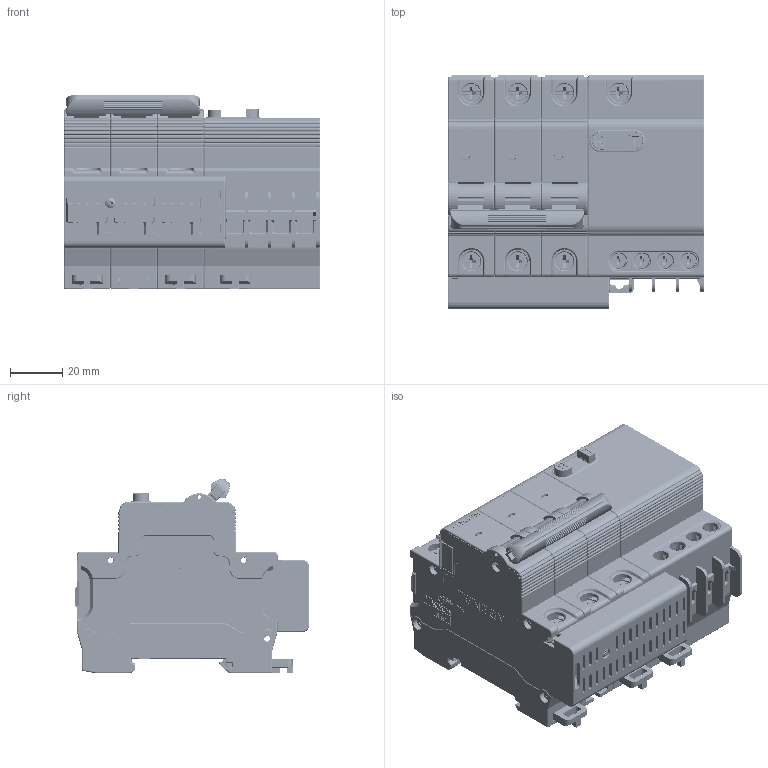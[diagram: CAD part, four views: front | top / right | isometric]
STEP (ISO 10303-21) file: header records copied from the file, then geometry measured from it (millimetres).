
FILE_DESCRIPTION (( 'STEP AP214' ), '1' );
FILE_NAME ('TGB1NLE-32 3P+N.STEP', '2025-12-12T12:58:45', ( '' ), ( '' ), 'SwSTEP 2.0', 'SolidWorks 2024', '' );
FILE_SCHEMA (( 'AUTOMOTIVE_DESIGN' ));
Length unit declared in the file: millimetre
Products named in the file (3): 2TZD_256_1139_SW0001_1.stp; TGB1NLE-32 3P+N; TGB1NLE-32 3P+N.stp
Assembly tree (2 placements, depth 3):
  TGB1NLE-32 3P+N
    TGB1NLE-32 3P+N.stp
      2TZD_256_1139_SW0001_1.stp
Bounding box: 98.1 x 89.4 x 74.4 mm (x, y, z)
Volume: 288880.1 mm3; surface area: 146973.2 mm2
Topology: 1 solids, 7 shells, 12056 faces, 32624 edges, 20598 vertices
Faces by surface type: plane 6844, cylinder 3231, torus 820, bspline 565, cone 495, sphere 101
Entity records: 422869 total; most frequent: CARTESIAN_POINT 126205, ORIENTED_EDGE 65022, DIRECTION 58081, EDGE_CURVE 32511, VERTEX_POINT 20574, VECTOR 20451, LINE 20451, AXIS2_PLACEMENT_3D 18815
